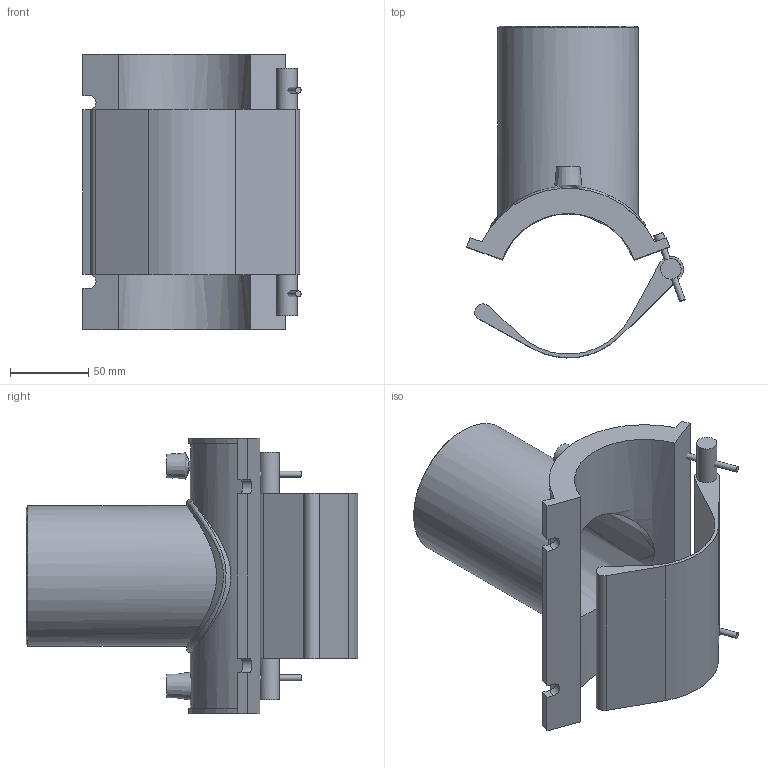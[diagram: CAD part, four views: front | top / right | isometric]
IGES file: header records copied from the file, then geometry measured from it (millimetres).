
Global section: file name: 495804090090.ipt; native system: Autodesk Inventor 2015; preprocessor: unknown; author: KIM; date: 20180426.120833; units: millimetre
Bounding box: 139.64 x 212.24 x 176 mm (x, y, z)
Volume: 669344 mm3; surface area: 158537.9 mm2
Topology: 5 solids, 5 shells, 66 faces, 140 edges, 95 vertices
Faces by surface type: plane 37, cylinder 18, revolution 7, cone 3, bspline 1
Full cylindrical faces by diameter (mm): 3.78 x2, 4 x2, 6.3 x2, 12.96 x2, 90 x1
